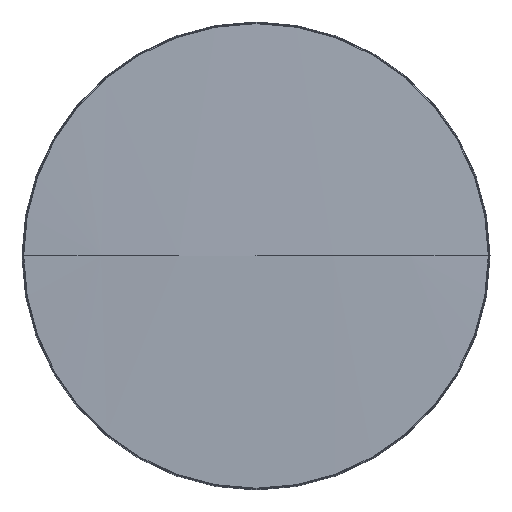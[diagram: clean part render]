
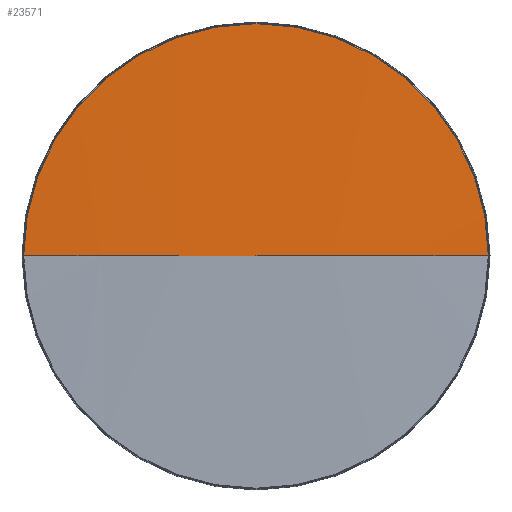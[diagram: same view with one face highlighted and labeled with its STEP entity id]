
A CAD part, top view. The second image highlights one B-rep face of the part: STEP entity #23571.
In plain terms, the highlighted spherical face has radius 2487.93 mm.
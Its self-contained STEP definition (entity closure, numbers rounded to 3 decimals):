
#23420=CARTESIAN_POINT('',(0.,0.,-2590.926));
#23421=DIRECTION('',(0.,1.,0.));
#23422=DIRECTION('',(0.,0.,1.));
#23423=AXIS2_PLACEMENT_3D('',#23420,#23421,#23422);
#23425=CARTESIAN_POINT('',(0.,0.,-2590.926));
#23426=DIRECTION('',(0.,-1.,0.));
#23427=DIRECTION('',(0.,0.,1.));
#23428=AXIS2_PLACEMENT_3D('',#23425,#23426,#23427);
#23473=CARTESIAN_POINT('',(0.,0.,-104.981));
#23474=DIRECTION('',(0.,0.,-1.));
#23475=DIRECTION('',(-1.,0.,0.));
#23476=AXIS2_PLACEMENT_3D('',#23473,#23474,#23475);
#23508=CARTESIAN_POINT('',(0.,0.,-103.));
#23509=CARTESIAN_POINT('',(-99.266,0.,
-104.981));
#23510=VERTEX_POINT('',#23508);
#23511=VERTEX_POINT('',#23509);
#23512=CARTESIAN_POINT('',(99.266,0.,
-104.981));
#23513=VERTEX_POINT('',#23512);
#23560=CARTESIAN_POINT('',(0.,0.,-2590.926));
#23561=DIRECTION('',(0.,0.,-1.));
#23562=DIRECTION('',(1.,0.,0.));
#23563=AXIS2_PLACEMENT_3D('',#23560,#23561,#23562);
#23564=SPHERICAL_SURFACE('',#23563,2487.926);
#23566=ORIENTED_EDGE('',*,*,#23565,.T.);
#23567=ORIENTED_EDGE('',*,*,#23555,.F.);
#23568=ORIENTED_EDGE('',*,*,#23553,.T.);
#23569=EDGE_LOOP('',(#23566,#23567,#23568));
#23570=FACE_OUTER_BOUND('',#23569,.F.);
#23571=ADVANCED_FACE('',(#23570),#23564,.T.);
#23424=CIRCLE('',#23423,2487.926);
#23429=CIRCLE('',#23428,2487.926);
#23477=CIRCLE('',#23476,99.266);
#23553=EDGE_CURVE('',#23510,#23511,#23429,.T.);
#23555=EDGE_CURVE('',#23510,#23513,#23424,.T.);
#23565=EDGE_CURVE('',#23511,#23513,#23477,.T.);
